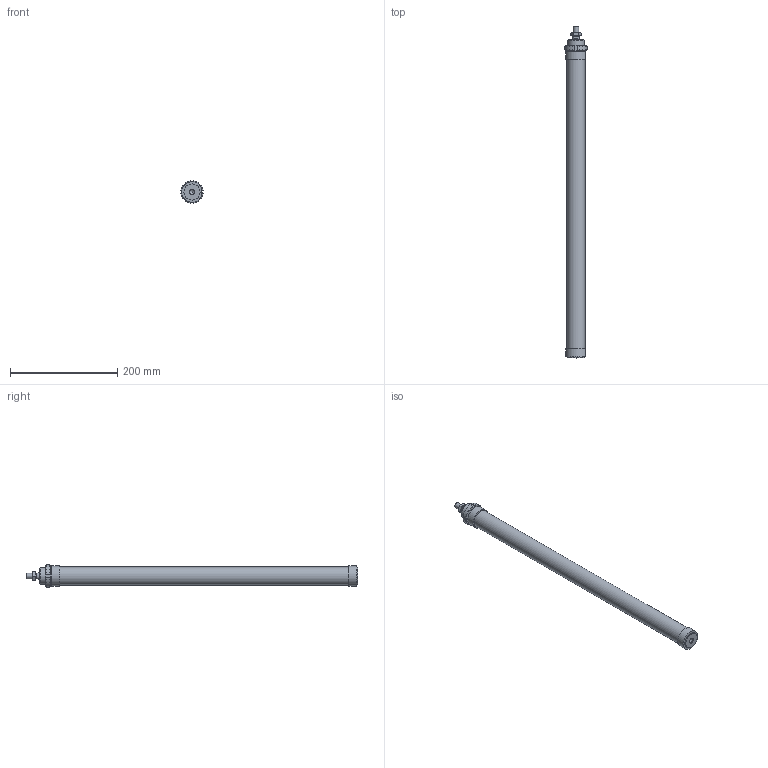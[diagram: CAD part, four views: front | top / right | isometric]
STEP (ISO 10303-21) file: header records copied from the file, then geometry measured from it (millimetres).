
FILE_DESCRIPTION((''),'2;1');
FILE_NAME('I:\Area Tecnica\Disegni\VARIE-3D\Componenti\1280\1281_##_####_#\1281_32_0500.iam.stp','2009-06-04T09:41:39',(''),(''),'Autodesk Inventor 2010','Autodesk Inventor 2010','');
FILE_SCHEMA(('AUTOMOTIVE_DESIGN { 1 0 10303 214 1 1 1 1 }'));
Length unit declared in the file: millimetre
Products named in the file (5): 1281_32_0500; C1281_32_500; S1280_32_500; 1200_32_05; 1200_32_06
Assembly tree (4 placements, depth 2):
  1281_32_0500
    C1281_32_500
    S1280_32_500
    1200_32_05
    1200_32_06
Bounding box: 41.7 x 619.5 x 41.7 mm (x, y, z)
Volume: 535627.2 mm3; surface area: 111746.5 mm2
Topology: 4 solids, 4 shells, 88 faces, 195 edges, 124 vertices
Faces by surface type: plane 39, cone 22, bspline 14, cylinder 13
Full cylindrical faces by diameter (mm): 8.8 x1, 10 x1, 12 x2, 30 x2, 33.6 x1
Entity records: 2663 total; most frequent: CARTESIAN_POINT 675, DIRECTION 362, ORIENTED_EDGE 338, EDGE_CURVE 169, AXIS2_PLACEMENT_3D 150, EDGE_LOOP 122, VERTEX_POINT 119, STYLED_ITEM 92
